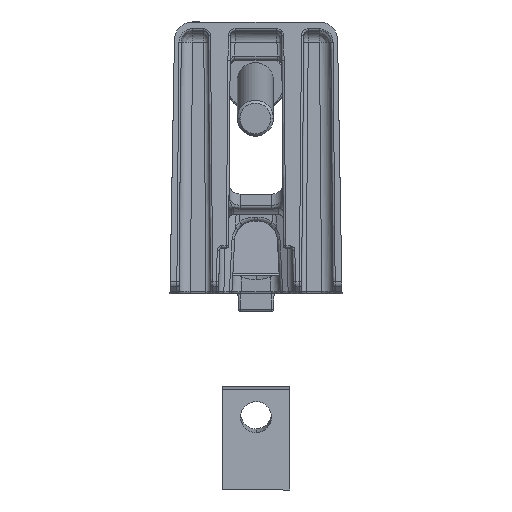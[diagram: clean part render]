
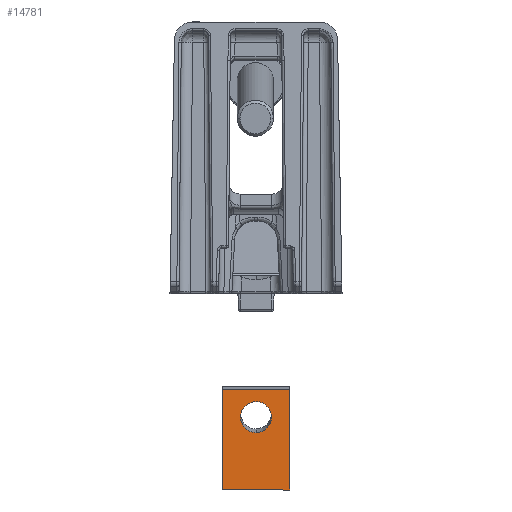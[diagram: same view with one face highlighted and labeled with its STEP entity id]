
A CAD part, front view. The second image highlights one B-rep face of the part: STEP entity #14781.
In plain terms, the highlighted planar face has unit normal (0, -1, 0).
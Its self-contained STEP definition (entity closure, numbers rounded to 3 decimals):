
#463 = DIRECTION ( 'NONE',  ( -1., 0., 0. ) ) ;
#875 = CARTESIAN_POINT ( 'NONE',  ( 87.498, -104.999, -71.362 ) ) ;
#1863 = CARTESIAN_POINT ( 'NONE',  ( 72.498, -104.999, -49.241 ) ) ;
#2337 = CARTESIAN_POINT ( 'NONE',  ( 87.498, -104.999, -71.362 ) ) ;
#2985 = ORIENTED_EDGE ( 'NONE', *, *, #15936, .F. ) ;
#3209 = EDGE_CURVE ( 'NONE', #15356, #4883, #3556, .T. ) ;
#3212 = VECTOR ( 'NONE', #463, 1000. ) ;
#3436 = ORIENTED_EDGE ( 'NONE', *, *, #4734, .F. ) ;
#3468 = CARTESIAN_POINT ( 'NONE',  ( 72.498, -104.999, -71.362 ) ) ;
#3508 = ORIENTED_EDGE ( 'NONE', *, *, #5390, .F. ) ;
#3556 = LINE ( 'NONE', #875, #3212 ) ;
#3721 = ORIENTED_EDGE ( 'NONE', *, *, #3209, .F. ) ;
#4267 = ORIENTED_EDGE ( 'NONE', *, *, #14096, .F. ) ;
#4398 = ORIENTED_EDGE ( 'NONE', *, *, #6286, .F. ) ;
#4734 = EDGE_CURVE ( 'NONE', #8609, #10401, #16972, .T. ) ;
#4883 = VERTEX_POINT ( 'NONE', #3468 ) ;
#5390 = EDGE_CURVE ( 'NONE', #10401, #15356, #11700, .T. ) ;
#6278 = CARTESIAN_POINT ( 'NONE',  ( 73.198, -104.999, -51.855 ) ) ;
#6286 = EDGE_CURVE ( 'NONE', #18397, #19980, #18057, .T. ) ;
#6296 = FACE_OUTER_BOUND ( 'NONE', #22372, .T. ) ;
#6372 = CARTESIAN_POINT ( 'NONE',  ( 87.498, -104.999, -49.241 ) ) ;
#6419 = EDGE_LOOP ( 'NONE', ( #4398, #4267 ) ) ;
#6565 = VECTOR ( 'NONE', #11942, 1000. ) ;
#7138 = LINE ( 'NONE', #19466, #6565 ) ;
#7489 = CARTESIAN_POINT ( 'NONE',  ( 87.498, -104.999, -71.362 ) ) ;
#8149 = CARTESIAN_POINT ( 'NONE',  ( 79.998, -104.999, -51.855 ) ) ;
#8314 = CARTESIAN_POINT ( 'NONE',  ( 87.498, -104.999, -71.362 ) ) ;
#8609 = VERTEX_POINT ( 'NONE', #1863 ) ;
#9746 = PLANE ( 'NONE',  #24035 ) ;
#9893 = DIRECTION ( 'NONE',  ( 0., 0., 1. ) ) ;
#10401 = VERTEX_POINT ( 'NONE', #6372 ) ;
#10649 = FACE_BOUND ( 'NONE', #6419, .T. ) ;
#10760 = CARTESIAN_POINT ( 'NONE',  ( 79.998, -104.999, -51.855 ) ) ;
#11128 = DIRECTION ( 'NONE',  ( 0., 0., -1. ) ) ;
#11655 = VECTOR ( 'NONE', #11128, 1000. ) ;
#11700 = LINE ( 'NONE', #7489, #11655 ) ;
#11942 = DIRECTION ( 'NONE',  ( 0., 0., 1. ) ) ;
#13842 = CARTESIAN_POINT ( 'NONE',  ( 79.998, -104.999, -51.855 ) ) ;
#14096 = EDGE_CURVE ( 'NONE', #19980, #18397, #15309, .T. ) ;
#14781 = ADVANCED_FACE ( 'NONE', ( #10649, #6296 ), #9746, .F. ) ;
#15309 =( BOUNDED_CURVE ( )  B_SPLINE_CURVE ( 3, ( #16296, #16375, #21988, #10760 ),
 .UNSPECIFIED., .F., .F. ) 
 B_SPLINE_CURVE_WITH_KNOTS ( ( 4, 4 ),
 ( 3.142, 6.283 ),
 .UNSPECIFIED. ) 
 CURVE ( )  GEOMETRIC_REPRESENTATION_ITEM ( )  RATIONAL_B_SPLINE_CURVE ( ( 1., 0.333, 0.333, 1. ) ) 
 REPRESENTATION_ITEM ( '' )  );
#15356 = VERTEX_POINT ( 'NONE', #8314 ) ;
#15518 = CARTESIAN_POINT ( 'NONE',  ( 73.198, -104.999, -58.693 ) ) ;
#15936 = EDGE_CURVE ( 'NONE', #4883, #8609, #7138, .T. ) ;
#16296 = CARTESIAN_POINT ( 'NONE',  ( 79.998, -104.999, -58.693 ) ) ;
#16375 = CARTESIAN_POINT ( 'NONE',  ( 86.798, -104.999, -58.693 ) ) ;
#16972 = LINE ( 'NONE', #19755, #17023 ) ;
#17023 = VECTOR ( 'NONE', #21582, 1000. ) ;
#17765 = CARTESIAN_POINT ( 'NONE',  ( 79.998, -104.999, -58.693 ) ) ;
#18057 =( BOUNDED_CURVE ( )  B_SPLINE_CURVE ( 3, ( #8149, #6278, #15518, #21238 ),
 .UNSPECIFIED., .F., .F. ) 
 B_SPLINE_CURVE_WITH_KNOTS ( ( 4, 4 ),
 ( 0., 3.142 ),
 .UNSPECIFIED. ) 
 CURVE ( )  GEOMETRIC_REPRESENTATION_ITEM ( )  RATIONAL_B_SPLINE_CURVE ( ( 1., 0.333, 0.333, 1. ) ) 
 REPRESENTATION_ITEM ( '' )  );
#18397 = VERTEX_POINT ( 'NONE', #13842 ) ;
#19466 = CARTESIAN_POINT ( 'NONE',  ( 72.498, -104.999, -71.362 ) ) ;
#19755 = CARTESIAN_POINT ( 'NONE',  ( 87.498, -104.999, -49.241 ) ) ;
#19980 = VERTEX_POINT ( 'NONE', #17765 ) ;
#21109 = DIRECTION ( 'NONE',  ( 0., 1., 0. ) ) ;
#21238 = CARTESIAN_POINT ( 'NONE',  ( 79.998, -104.999, -58.693 ) ) ;
#21582 = DIRECTION ( 'NONE',  ( 1., 0., 0. ) ) ;
#21988 = CARTESIAN_POINT ( 'NONE',  ( 86.798, -104.999, -51.855 ) ) ;
#22372 = EDGE_LOOP ( 'NONE', ( #3721, #3508, #3436, #2985 ) ) ;
#24035 = AXIS2_PLACEMENT_3D ( 'NONE', #2337, #21109, #9893 ) ;
